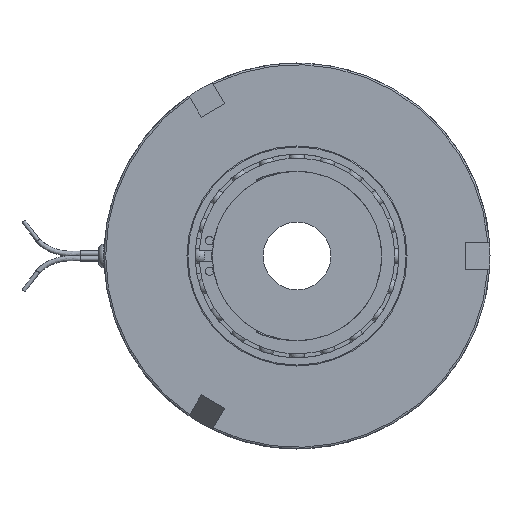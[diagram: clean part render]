
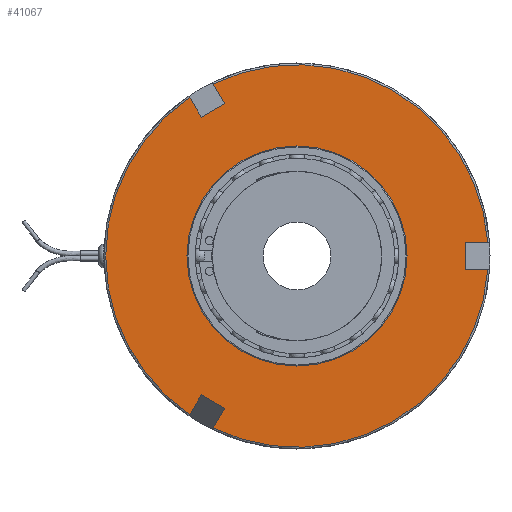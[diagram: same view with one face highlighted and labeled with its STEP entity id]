
A CAD part, left-side view. The second image highlights one B-rep face of the part: STEP entity #41067.
In plain terms, the highlighted planar face has unit normal (-1, 0, 0).
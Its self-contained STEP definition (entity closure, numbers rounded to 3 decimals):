
#4434=LINE('',#76235,#6388);
#4437=LINE('',#76244,#6391);
#4440=LINE('',#76251,#6394);
#4441=LINE('',#76256,#6395);
#4444=LINE('',#76265,#6398);
#4447=LINE('',#76272,#6401);
#4450=LINE('',#76299,#6404);
#4452=LINE('',#76303,#6406);
#4454=LINE('',#76306,#6408);
#6388=VECTOR('',#61119,10.);
#6391=VECTOR('',#61126,10.);
#6394=VECTOR('',#61133,10.);
#6395=VECTOR('',#61138,10.);
#6398=VECTOR('',#61145,10.);
#6401=VECTOR('',#61152,10.);
#6404=VECTOR('',#61187,10.);
#6406=VECTOR('',#61191,10.);
#6408=VECTOR('',#61195,10.);
#8176=PLANE('',#47142);
#8579=FACE_BOUND('',#12922,.T.);
#10608=FACE_OUTER_BOUND('',#12921,.T.);
#12921=EDGE_LOOP('',(#36713,#36714,#36715,#36716,#36717,#36718,#36719,#36720,
#36721,#36722,#36723,#36724));
#12922=EDGE_LOOP('',(#36725));
#14604=CIRCLE('',#47129,56.5);
#14605=CIRCLE('',#47131,56.5);
#14606=CIRCLE('',#47134,56.5);
#14609=CIRCLE('',#47143,32.5);
#18594=VERTEX_POINT('',#76233);
#18595=VERTEX_POINT('',#76234);
#18598=VERTEX_POINT('',#76242);
#18599=VERTEX_POINT('',#76243);
#18602=VERTEX_POINT('',#76254);
#18603=VERTEX_POINT('',#76255);
#18606=VERTEX_POINT('',#76263);
#18607=VERTEX_POINT('',#76264);
#18615=VERTEX_POINT('',#76288);
#18616=VERTEX_POINT('',#76292);
#18617=VERTEX_POINT('',#76298);
#18618=VERTEX_POINT('',#76302);
#18621=VERTEX_POINT('',#76314);
#24625=EDGE_CURVE('',#18594,#18595,#4434,.T.);
#24629=EDGE_CURVE('',#18598,#18599,#4437,.T.);
#24633=EDGE_CURVE('',#18599,#18594,#4440,.T.);
#24635=EDGE_CURVE('',#18602,#18603,#4441,.T.);
#24639=EDGE_CURVE('',#18606,#18607,#4444,.T.);
#24643=EDGE_CURVE('',#18607,#18602,#4447,.T.);
#24653=EDGE_CURVE('',#18615,#18603,#14604,.T.);
#24654=EDGE_CURVE('',#18598,#18616,#14605,.T.);
#24656=EDGE_CURVE('',#18606,#18595,#14606,.T.);
#24657=EDGE_CURVE('',#18617,#18616,#4450,.T.);
#24659=EDGE_CURVE('',#18615,#18618,#4452,.T.);
#24661=EDGE_CURVE('',#18618,#18617,#4454,.T.);
#24664=EDGE_CURVE('',#18621,#18621,#14609,.T.);
#36713=ORIENTED_EDGE('',*,*,#24625,.T.);
#36714=ORIENTED_EDGE('',*,*,#24656,.F.);
#36715=ORIENTED_EDGE('',*,*,#24639,.T.);
#36716=ORIENTED_EDGE('',*,*,#24643,.T.);
#36717=ORIENTED_EDGE('',*,*,#24635,.T.);
#36718=ORIENTED_EDGE('',*,*,#24653,.F.);
#36719=ORIENTED_EDGE('',*,*,#24659,.T.);
#36720=ORIENTED_EDGE('',*,*,#24661,.T.);
#36721=ORIENTED_EDGE('',*,*,#24657,.T.);
#36722=ORIENTED_EDGE('',*,*,#24654,.F.);
#36723=ORIENTED_EDGE('',*,*,#24629,.T.);
#36724=ORIENTED_EDGE('',*,*,#24633,.T.);
#36725=ORIENTED_EDGE('',*,*,#24664,.T.);
#41067=ADVANCED_FACE('',(#10608,#8579),#8176,.T.);
#47129=AXIS2_PLACEMENT_3D('',#76290,#61173,#61174);
#47131=AXIS2_PLACEMENT_3D('',#76293,#61177,#61178);
#47134=AXIS2_PLACEMENT_3D('',#76296,#61183,#61184);
#47142=AXIS2_PLACEMENT_3D('',#76313,#61204,#61205);
#47143=AXIS2_PLACEMENT_3D('',#76315,#61206,#61207);
#61119=DIRECTION('',(0.,0.5,0.866));
#61126=DIRECTION('',(0.,-0.5,-0.866));
#61133=DIRECTION('',(0.,0.866,-0.5));
#61138=DIRECTION('',(0.,0.5,-0.866));
#61145=DIRECTION('',(0.,-0.5,0.866));
#61152=DIRECTION('',(0.,-0.866,-0.5));
#61173=DIRECTION('center_axis',(1.,0.,0.));
#61174=DIRECTION('ref_axis',(0.,-1.,0.));
#61177=DIRECTION('center_axis',(1.,0.,0.));
#61178=DIRECTION('ref_axis',(0.,-1.,0.));
#61183=DIRECTION('center_axis',(1.,0.,0.));
#61184=DIRECTION('ref_axis',(0.,-1.,0.));
#61187=DIRECTION('',(0.,-1.,0.));
#61191=DIRECTION('',(0.,1.,0.));
#61195=DIRECTION('',(0.,0.,1.));
#61204=DIRECTION('center_axis',(-1.,0.,0.));
#61205=DIRECTION('ref_axis',(0.,0.,1.));
#61206=DIRECTION('center_axis',(1.,0.,0.));
#61207=DIRECTION('ref_axis',(0.,0.,-1.));
#76233=CARTESIAN_POINT('',(-22.,28.282,40.986));
#76234=CARTESIAN_POINT('',(-22.,31.643,46.808));
#76235=CARTESIAN_POINT('',(-22.,24.865,35.067));
#76242=CARTESIAN_POINT('',(-22.,24.715,50.808));
#76243=CARTESIAN_POINT('',(-22.,21.354,44.986));
#76244=CARTESIAN_POINT('',(-22.,17.936,39.067));
#76251=CARTESIAN_POINT('',(-22.,46.193,30.645));
#76254=CARTESIAN_POINT('',(-22.,21.354,-44.986));
#76255=CARTESIAN_POINT('',(-22.,24.715,-50.808));
#76256=CARTESIAN_POINT('',(-22.,17.936,-39.067));
#76263=CARTESIAN_POINT('',(-22.,31.643,-46.808));
#76264=CARTESIAN_POINT('',(-22.,28.282,-40.986));
#76265=CARTESIAN_POINT('',(-22.,24.865,-35.067));
#76272=CARTESIAN_POINT('',(-22.,46.193,-30.645));
#76288=CARTESIAN_POINT('',(-22.,-56.358,-4.));
#76290=CARTESIAN_POINT('Origin',(-22.,0.,0.));
#76292=CARTESIAN_POINT('',(-22.,-56.358,4.));
#76293=CARTESIAN_POINT('Origin',(-22.,0.,0.));
#76296=CARTESIAN_POINT('Origin',(-22.,0.,0.));
#76298=CARTESIAN_POINT('',(-22.,-49.636,4.));
#76299=CARTESIAN_POINT('',(-22.,-0.051,4.));
#76302=CARTESIAN_POINT('',(-22.,-49.636,-4.));
#76303=CARTESIAN_POINT('',(-22.,-0.051,-4.));
#76306=CARTESIAN_POINT('',(-22.,-49.636,0.));
#76313=CARTESIAN_POINT('Origin',(-22.,57.,0.));
#76314=CARTESIAN_POINT('',(-22.,32.5,0.));
#76315=CARTESIAN_POINT('Origin',(-22.,0.,0.));
